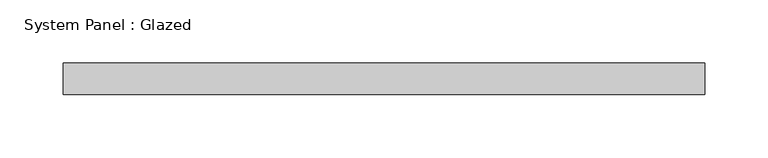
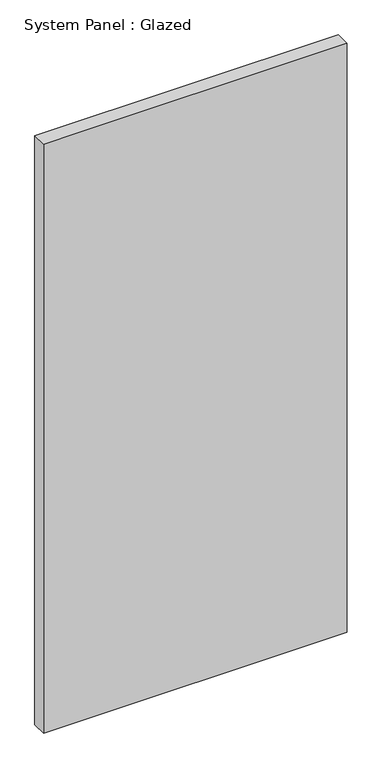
"""IFC4 building model written with IfcOpenShell, lengths in millimetres: plate geometry, System Panel : Glazed."""

import ifcopenshell
import ifcopenshell.guid

model = None  # the IFC model being written
_history = None  # IfcOwnerHistory: only IFC2X3 demands one
_inside = {}  # id of a spatial element -> (the spatial element, [elements in it])
_under = {}  # id of a project, library or spatial element -> (it, [spatial elements below it])
_declared = {}  # id of a project -> (the project, [libraries it declares])
_typed = {}  # id of a type object -> (the type object, [elements of that type])
_made_of = {}  # id of a material, layer set ... -> (it, [elements and type objects made of it])


def new_model(schema):
    """Start an empty IFC model of exactly this schema.

    Asked for "IFC4X3", IfcOpenShell would pick the latest addendum, in which some entities
    have other attributes; the version numbers below select the first issue.
    IFC2X3 requires an IfcOwnerHistory on every rooted entity: one is made here for all.
    """
    global model, _history
    if schema == "IFC4X3":
        model = ifcopenshell.file(schema_version=(4, 3, 0, 0))
    else:
        model = ifcopenshell.file(schema=schema)
    _inside.clear()
    _under.clear()
    _declared.clear()
    _typed.clear()
    _made_of.clear()
    _history = None
    if model.schema == "IFC2X3":
        org = make("IfcOrganization", Name="unknown")
        user = make(
            "IfcPersonAndOrganization",
            ThePerson=make("IfcPerson", FamilyName="unknown"),
            TheOrganization=org,
        )
        app = make(
            "IfcApplication",
            ApplicationDeveloper=org,
            Version="unknown",
            ApplicationFullName="unknown",
            ApplicationIdentifier="unknown",
        )
        _history = make(
            "IfcOwnerHistory",
            OwningUser=user,
            OwningApplication=app,
            ChangeAction="ADDED",
            CreationDate=0,
        )
    return model


def make(cls, **values):
    """One entity of the class cls with the attributes given. An attribute that is None is left unset."""
    return model.create_entity(
        cls, **{name: value for name, value in values.items() if value is not None}
    )


def rooted(cls, **values):
    """An entity with a GlobalId (a new one), such as an element, a storey or a relation."""
    return make(cls, GlobalId=ifcopenshell.guid.new(), OwnerHistory=_history, **values)


def si_unit(unit_type, name, prefix=None):
    """IfcSIUnit, for example si_unit("LENGTHUNIT", "METRE", prefix="MILLI")."""
    return make("IfcSIUnit", UnitType=unit_type, Prefix=prefix, Name=name)


def assignment(units):
    """IfcUnitAssignment: the units of a project."""
    return None if units is None else make("IfcUnitAssignment", Units=units)


def point(xyz):
    """IfcCartesianPoint."""
    return None if xyz is None else make("IfcCartesianPoint", Coordinates=xyz)


def direction(xyz):
    """IfcDirection."""
    return None if xyz is None else make("IfcDirection", DirectionRatios=xyz)


def frame(location, z_axis=None, x_axis=None):
    """IfcAxis2Placement3D, a coordinate frame: its origin and axes. An axis left out is left unset."""
    return make(
        "IfcAxis2Placement3D",
        Location=point(location),
        Axis=direction(z_axis),
        RefDirection=direction(x_axis),
    )


def origin():
    """The frame at (0, 0, 0) with its axes left unset."""
    return frame((0.0, 0.0, 0.0))


def origin_with_axes():
    """The frame at (0, 0, 0) with the z axis (0, 0, 1) and the x axis (1, 0, 0) written out."""
    return frame((0.0, 0.0, 0.0), z_axis=(0.0, 0.0, 1.0), x_axis=(1.0, 0.0, 0.0))


def place(relative_to, where):
    """IfcLocalPlacement: puts the frame where relative to a parent placement (None: the world)."""
    return make(
        "IfcLocalPlacement", PlacementRelTo=relative_to, RelativePlacement=where
    )


def context(
    kind, dimensions, precision=None, world=None, true_north=None, identifier=None
):
    """IfcGeometricRepresentationContext, for example the 3D "Model" context."""
    return make(
        "IfcGeometricRepresentationContext",
        ContextIdentifier=identifier,
        ContextType=kind,
        CoordinateSpaceDimension=dimensions,
        Precision=precision,
        WorldCoordinateSystem=world,
        TrueNorth=true_north,
    )


def project(units=None, contexts=None):
    """IfcProject with its units and contexts."""
    return rooted(
        "IfcProject",
        Name="project",
        RepresentationContexts=contexts,
        UnitsInContext=assignment(units),
    )


def spatial(cls, under=None, at=None, **own):
    """A site, building, storey or space (cls), placed at a placement, below another one or the project."""
    s = rooted(cls, ObjectPlacement=at, **own)
    if under is not None:
        _under.setdefault(under.id(), (under, []))[1].append(s)
    return s


def polyline(points):
    """IfcPolyline through the points."""
    return make("IfcPolyline", Points=[point(p) for p in points])


def outline(outer, holes=None, kind="AREA"):
    """IfcArbitraryClosedProfileDef: a profile drawn as a closed curve; with holes, ...WithVoids."""
    if holes is None:
        return make("IfcArbitraryClosedProfileDef", ProfileType=kind, OuterCurve=outer)
    return make(
        "IfcArbitraryProfileDefWithVoids",
        ProfileType=kind,
        OuterCurve=outer,
        InnerCurves=holes,
    )


def extrude(swept, where, along, depth):
    """IfcExtrudedAreaSolid: the profile swept, set in the frame where, extruded along a direction by depth."""
    return make(
        "IfcExtrudedAreaSolid",
        SweptArea=swept,
        Position=where,
        ExtrudedDirection=direction(along),
        Depth=depth,
    )


def shape(context_of_items, identifier, shape_type, items):
    """IfcShapeRepresentation: the items that make up one representation, for example the "Body"."""
    return make(
        "IfcShapeRepresentation",
        ContextOfItems=context_of_items,
        RepresentationIdentifier=identifier,
        RepresentationType=shape_type,
        Items=items,
    )


def source(mapping_origin, context_of_items, identifier, shape_type, items):
    """IfcRepresentationMap: a shape defined once, which mapped items show again and again."""
    return make(
        "IfcRepresentationMap",
        MappingOrigin=mapping_origin,
        MappedRepresentation=shape(context_of_items, identifier, shape_type, items),
    )


def transform(
    local_origin,
    x_axis=None,
    y_axis=None,
    z_axis=None,
    scale=None,
    scale2=None,
    scale3=None,
    uniform=True,
):
    """IfcCartesianTransformationOperator3D, or its non-uniform kind. x_axis, y_axis, z_axis: its Axis1, 2, 3."""
    if uniform:
        return make(
            "IfcCartesianTransformationOperator3D",
            Axis1=direction(x_axis),
            Axis2=direction(y_axis),
            LocalOrigin=point(local_origin),
            Scale=scale,
            Axis3=direction(z_axis),
        )
    return make(
        "IfcCartesianTransformationOperator3DnonUniform",
        Axis1=direction(x_axis),
        Axis2=direction(y_axis),
        LocalOrigin=point(local_origin),
        Scale=scale,
        Axis3=direction(z_axis),
        Scale2=scale2,
        Scale3=scale3,
    )


def mapped(mapping_source, mapping_target):
    """IfcMappedItem: shows the shape of a source again, moved by a transform."""
    return make(
        "IfcMappedItem", MappingSource=mapping_source, MappingTarget=mapping_target
    )


def made_of(thing, what):
    """Note that an element or type object is made of a material, layer set ...; save() writes the relation."""
    if what is not None:
        _made_of.setdefault(what.id(), (what, []))[1].append(thing)
    return thing


def element(
    cls,
    number,
    at=None,
    inside=None,
    cuts=None,
    type_object=None,
    material=None,
    context=None,
    identifier="Body",
    shape_type=None,
    held_by="IfcProductDefinitionShape",
    body=None,
    shapes=None,
    **own,
):
    """One element of the class cls, such as IfcWall. Its Tag is "e" and its number.

    at: its placement. inside: the storey or other place that contains it. cuts: it is an
    opening in that element (IfcRelVoidsElement). A single representation is given by context,
    identifier, shape_type and body (its items); several are given by shapes. held_by: the class
    of the entity that holds the representations. save() writes the other relations.
    """
    e = rooted(cls, Tag="e%d" % number, ObjectPlacement=at, **own)
    if body is not None:
        shapes = [shape(context, identifier, shape_type, body)]
    if shapes is not None:
        e.Representation = make(held_by, Representations=shapes)
    if inside is not None:
        _inside.setdefault(inside.id(), (inside, []))[1].append(e)
    if cuts is not None:
        rooted(
            "IfcRelVoidsElement", RelatingBuildingElement=cuts, RelatedOpeningElement=e
        )
    if type_object is not None:
        _typed.setdefault(type_object.id(), (type_object, []))[1].append(e)
    return made_of(e, material)


def aggregate(whole, parts):
    """IfcRelAggregates: a whole, such as a stair, and the parts it consists of."""
    return rooted("IfcRelAggregates", RelatingObject=whole, RelatedObjects=parts)


def save(model, path):
    """Write the relations noted so far, then the file.

    IfcRelAggregates (storeys below a building ...), IfcRelContainedInSpatialStructure (elements
    in a storey), IfcRelDefinesByType, IfcRelAssociatesMaterial and IfcRelDeclares: one each for
    every whole, place, type object, material and project.
    """
    for whole, parts in _under.values():
        aggregate(whole, parts)
    for where, things in _inside.values():
        rooted(
            "IfcRelContainedInSpatialStructure",
            RelatedElements=things,
            RelatingStructure=where,
        )
    for kind, things in _typed.values():
        rooted("IfcRelDefinesByType", RelatedObjects=things, RelatingType=kind)
    for what, things in _made_of.values():
        rooted("IfcRelAssociatesMaterial", RelatedObjects=things, RelatingMaterial=what)
    for by, libraries in _declared.values():
        rooted("IfcRelDeclares", RelatingContext=by, RelatedDefinitions=libraries)
    model.write(path)


def system_panel_glazed_60aad79c(model_context):
    return source(origin(), model_context, "Body", "SweptSolid", [
        extrude(outline(polyline([(254.2200031, -12.5), (-254.2200031, -12.5), (-254.2200031, 12.5), (254.2200031, 12.5), (254.2200031, -12.5)])), origin_with_axes(), (0.0, 0.0, 1.0), 1041.7444455),
    ])


if __name__ == "__main__":
    model = new_model("IFC4")
    model_context = context("Model", 3, world=origin())
    ifc_project = project(units=[si_unit("LENGTHUNIT", "METRE", prefix="MILLI")], contexts=[model_context])
    site = spatial("IfcSite", under=ifc_project)
    building = spatial("IfcBuilding", under=site)
    placement = place(None, origin())
    system_panel_glazed_shape = system_panel_glazed_60aad79c(model_context)
    element("IfcPlate", 1, ObjectType="System Panel : Glazed", at=placement, inside=building, context=model_context, shape_type="MappedRepresentation", body=[
        mapped(system_panel_glazed_shape, transform((0.0, 0.0, 0.0), x_axis=(1.0, 0.0, 0.0), y_axis=(0.0, 1.0, 0.0), z_axis=(0.0, 0.0, 1.0))),
    ])
    save(model, "model.ifc")
